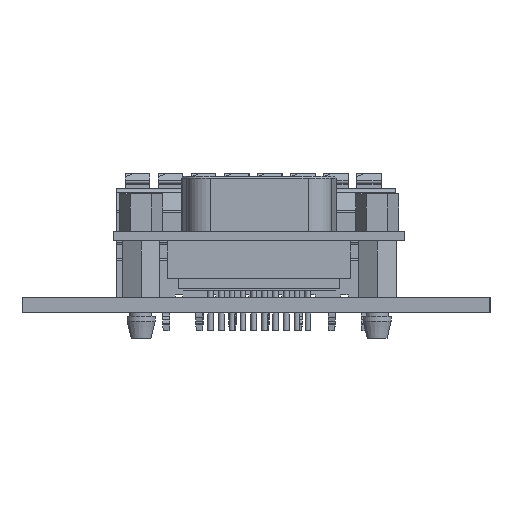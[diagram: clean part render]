
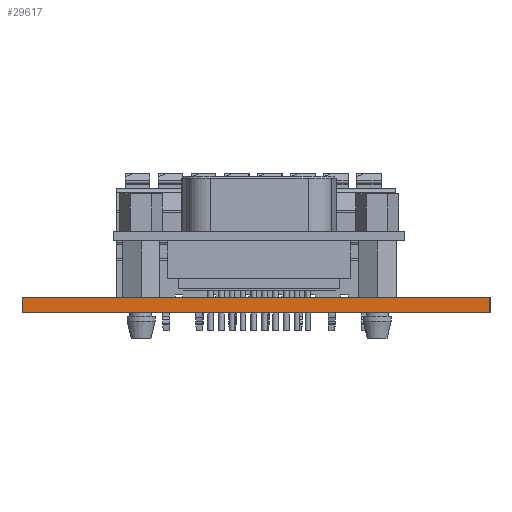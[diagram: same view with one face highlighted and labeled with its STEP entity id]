
A CAD part, left-side view. The second image highlights one B-rep face of the part: STEP entity #29617.
In plain terms, the highlighted planar face has unit normal (-1, 0, 0).
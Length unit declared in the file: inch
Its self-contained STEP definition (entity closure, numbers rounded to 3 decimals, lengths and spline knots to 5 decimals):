
#3287 = EDGE_LOOP ( 'NONE', ( #24281, #49074, #52654, #9417 ) ) ;
#3749 = EDGE_CURVE ( 'NONE', #62161, #74467, #30517, .T. ) ;
#5034 = CARTESIAN_POINT ( 'NONE',  ( 23.195, 7.795, 0. ) ) ;
#5248 = VERTEX_POINT ( 'NONE', #47958 ) ;
#8849 = CARTESIAN_POINT ( 'NONE',  ( 23.195, 7.795, 0.0625 ) ) ;
#9417 = ORIENTED_EDGE ( 'NONE', *, *, #34898, .T. ) ;
#9547 = DIRECTION ( 'NONE',  ( -1., 0., 0. ) ) ;
#12864 = EDGE_CURVE ( 'NONE', #5248, #62161, #57249, .T. ) ;
#24281 = ORIENTED_EDGE ( 'NONE', *, *, #3749, .F. ) ;
#26977 = CARTESIAN_POINT ( 'NONE',  ( 23.195, 0., 0.0625 ) ) ;
#29617 = ADVANCED_FACE ( 'NONE', ( #106713 ), #85395, .T. ) ;
#30517 = LINE ( 'NONE', #101830, #68501 ) ;
#34898 = EDGE_CURVE ( 'NONE', #73408, #74467, #102916, .T. ) ;
#35669 = DIRECTION ( 'NONE',  ( 0., 1., 0. ) ) ;
#36027 = DIRECTION ( 'NONE',  ( 0., 0., -1. ) ) ;
#41183 = VECTOR ( 'NONE', #35669, 39.37008 ) ;
#45253 = AXIS2_PLACEMENT_3D ( 'NONE', #26977, #9547, #103564 ) ;
#47958 = CARTESIAN_POINT ( 'NONE',  ( 23.195, 5.845, 0.0625 ) ) ;
#49074 = ORIENTED_EDGE ( 'NONE', *, *, #12864, .F. ) ;
#52654 = ORIENTED_EDGE ( 'NONE', *, *, #81552, .T. ) ;
#57249 = LINE ( 'NONE', #96217, #58677 ) ;
#58677 = VECTOR ( 'NONE', #61663, 39.37008 ) ;
#60176 = LINE ( 'NONE', #105812, #41183 ) ;
#60310 = CARTESIAN_POINT ( 'NONE',  ( 23.195, 5.845, 0. ) ) ;
#61663 = DIRECTION ( 'NONE',  ( 0., 0., -1. ) ) ;
#62161 = VERTEX_POINT ( 'NONE', #60310 ) ;
#68501 = VECTOR ( 'NONE', #93481, 39.37008 ) ;
#73408 = VERTEX_POINT ( 'NONE', #76579 ) ;
#74467 = VERTEX_POINT ( 'NONE', #5034 ) ;
#76579 = CARTESIAN_POINT ( 'NONE',  ( 23.195, 7.795, 0.0625 ) ) ;
#81552 = EDGE_CURVE ( 'NONE', #5248, #73408, #60176, .T. ) ;
#85395 = PLANE ( 'NONE',  #45253 ) ;
#93481 = DIRECTION ( 'NONE',  ( 0., 1., 0. ) ) ;
#96217 = CARTESIAN_POINT ( 'NONE',  ( 23.195, 5.845, 0.0625 ) ) ;
#101830 = CARTESIAN_POINT ( 'NONE',  ( 23.195, 0., 0. ) ) ;
#102916 = LINE ( 'NONE', #8849, #109623 ) ;
#103564 = DIRECTION ( 'NONE',  ( 0., 0., 1. ) ) ;
#105812 = CARTESIAN_POINT ( 'NONE',  ( 23.195, 0., 0.0625 ) ) ;
#106713 = FACE_OUTER_BOUND ( 'NONE', #3287, .T. ) ;
#109623 = VECTOR ( 'NONE', #36027, 39.37008 ) ;
